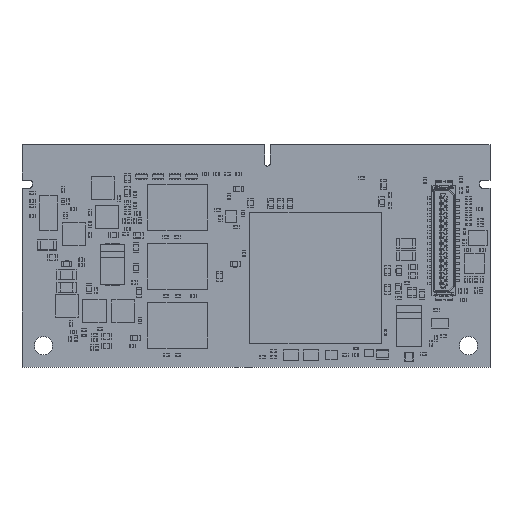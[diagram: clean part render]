
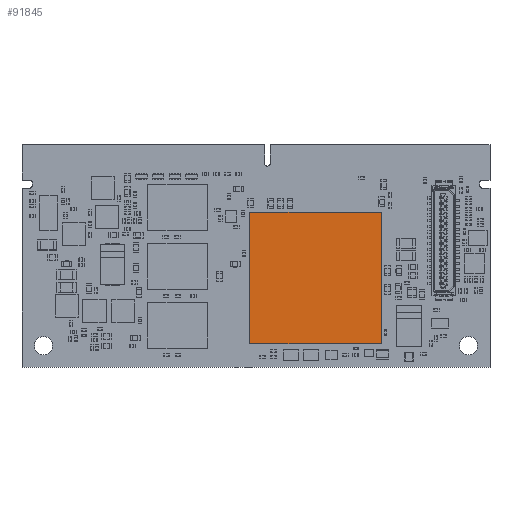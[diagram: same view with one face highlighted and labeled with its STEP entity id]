
A CAD part, top view. The second image highlights one B-rep face of the part: STEP entity #91845.
In plain terms, the highlighted planar face has unit normal (0, 0, 1).
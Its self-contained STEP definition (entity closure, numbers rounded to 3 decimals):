
#91531 = VERTEX_POINT('',#91532);
#91532 = CARTESIAN_POINT('',(-11.5,-11.5,1.5));
#91539 = PLANE('',#91540);
#91540 = AXIS2_PLACEMENT_3D('',#91541,#91542,#91543);
#91541 = CARTESIAN_POINT('',(-11.5,-11.5,0.));
#91542 = DIRECTION('',(-1.,0.,0.));
#91543 = DIRECTION('',(0.,1.,0.));
#91551 = PLANE('',#91552);
#91552 = AXIS2_PLACEMENT_3D('',#91553,#91554,#91555);
#91553 = CARTESIAN_POINT('',(11.5,-11.5,0.));
#91554 = DIRECTION('',(0.,-1.,0.));
#91555 = DIRECTION('',(-1.,0.,0.));
#91563 = EDGE_CURVE('',#91531,#91564,#91566,.T.);
#91564 = VERTEX_POINT('',#91565);
#91565 = CARTESIAN_POINT('',(-11.5,11.5,1.5));
#91566 = SURFACE_CURVE('',#91567,(#91571,#91578),.PCURVE_S1.);
#91567 = LINE('',#91568,#91569);
#91568 = CARTESIAN_POINT('',(-11.5,-11.5,1.5));
#91569 = VECTOR('',#91570,1.);
#91570 = DIRECTION('',(0.,1.,0.));
#91571 = PCURVE('',#91539,#91572);
#91572 = DEFINITIONAL_REPRESENTATION('',(#91573),#91577);
#91573 = LINE('',#91574,#91575);
#91574 = CARTESIAN_POINT('',(0.,-1.5));
#91575 = VECTOR('',#91576,1.);
#91576 = DIRECTION('',(1.,0.));
#91577 = ( GEOMETRIC_REPRESENTATION_CONTEXT(2) 
PARAMETRIC_REPRESENTATION_CONTEXT() REPRESENTATION_CONTEXT('2D SPACE',''
  ) );
#91578 = PCURVE('',#91579,#91584);
#91579 = PLANE('',#91580);
#91580 = AXIS2_PLACEMENT_3D('',#91581,#91582,#91583);
#91581 = CARTESIAN_POINT('',(-11.5,-11.5,1.5));
#91582 = DIRECTION('',(0.,0.,1.));
#91583 = DIRECTION('',(1.,0.,0.));
#91584 = DEFINITIONAL_REPRESENTATION('',(#91585),#91589);
#91585 = LINE('',#91586,#91587);
#91586 = CARTESIAN_POINT('',(0.,0.));
#91587 = VECTOR('',#91588,1.);
#91588 = DIRECTION('',(0.,1.));
#91589 = ( GEOMETRIC_REPRESENTATION_CONTEXT(2) 
PARAMETRIC_REPRESENTATION_CONTEXT() REPRESENTATION_CONTEXT('2D SPACE',''
  ) );
#91607 = PLANE('',#91608);
#91608 = AXIS2_PLACEMENT_3D('',#91609,#91610,#91611);
#91609 = CARTESIAN_POINT('',(-11.5,11.5,0.));
#91610 = DIRECTION('',(0.,1.,0.));
#91611 = DIRECTION('',(1.,0.,0.));
#91649 = EDGE_CURVE('',#91564,#91650,#91652,.T.);
#91650 = VERTEX_POINT('',#91651);
#91651 = CARTESIAN_POINT('',(11.5,11.5,1.5));
#91652 = SURFACE_CURVE('',#91653,(#91657,#91664),.PCURVE_S1.);
#91653 = LINE('',#91654,#91655);
#91654 = CARTESIAN_POINT('',(-11.5,11.5,1.5));
#91655 = VECTOR('',#91656,1.);
#91656 = DIRECTION('',(1.,0.,0.));
#91657 = PCURVE('',#91607,#91658);
#91658 = DEFINITIONAL_REPRESENTATION('',(#91659),#91663);
#91659 = LINE('',#91660,#91661);
#91660 = CARTESIAN_POINT('',(0.,-1.5));
#91661 = VECTOR('',#91662,1.);
#91662 = DIRECTION('',(1.,0.));
#91663 = ( GEOMETRIC_REPRESENTATION_CONTEXT(2) 
PARAMETRIC_REPRESENTATION_CONTEXT() REPRESENTATION_CONTEXT('2D SPACE',''
  ) );
#91664 = PCURVE('',#91579,#91665);
#91665 = DEFINITIONAL_REPRESENTATION('',(#91666),#91670);
#91666 = LINE('',#91667,#91668);
#91667 = CARTESIAN_POINT('',(0.,23.));
#91668 = VECTOR('',#91669,1.);
#91669 = DIRECTION('',(1.,0.));
#91670 = ( GEOMETRIC_REPRESENTATION_CONTEXT(2) 
PARAMETRIC_REPRESENTATION_CONTEXT() REPRESENTATION_CONTEXT('2D SPACE',''
  ) );
#91688 = PLANE('',#91689);
#91689 = AXIS2_PLACEMENT_3D('',#91690,#91691,#91692);
#91690 = CARTESIAN_POINT('',(11.5,11.5,0.));
#91691 = DIRECTION('',(1.,0.,0.));
#91692 = DIRECTION('',(0.,-1.,0.));
#91725 = EDGE_CURVE('',#91650,#91726,#91728,.T.);
#91726 = VERTEX_POINT('',#91727);
#91727 = CARTESIAN_POINT('',(11.5,-11.5,1.5));
#91728 = SURFACE_CURVE('',#91729,(#91733,#91740),.PCURVE_S1.);
#91729 = LINE('',#91730,#91731);
#91730 = CARTESIAN_POINT('',(11.5,11.5,1.5));
#91731 = VECTOR('',#91732,1.);
#91732 = DIRECTION('',(0.,-1.,0.));
#91733 = PCURVE('',#91688,#91734);
#91734 = DEFINITIONAL_REPRESENTATION('',(#91735),#91739);
#91735 = LINE('',#91736,#91737);
#91736 = CARTESIAN_POINT('',(0.,-1.5));
#91737 = VECTOR('',#91738,1.);
#91738 = DIRECTION('',(1.,0.));
#91739 = ( GEOMETRIC_REPRESENTATION_CONTEXT(2) 
PARAMETRIC_REPRESENTATION_CONTEXT() REPRESENTATION_CONTEXT('2D SPACE',''
  ) );
#91740 = PCURVE('',#91579,#91741);
#91741 = DEFINITIONAL_REPRESENTATION('',(#91742),#91746);
#91742 = LINE('',#91743,#91744);
#91743 = CARTESIAN_POINT('',(23.,23.));
#91744 = VECTOR('',#91745,1.);
#91745 = DIRECTION('',(0.,-1.));
#91746 = ( GEOMETRIC_REPRESENTATION_CONTEXT(2) 
PARAMETRIC_REPRESENTATION_CONTEXT() REPRESENTATION_CONTEXT('2D SPACE',''
  ) );
#91796 = EDGE_CURVE('',#91726,#91531,#91797,.T.);
#91797 = SURFACE_CURVE('',#91798,(#91802,#91809),.PCURVE_S1.);
#91798 = LINE('',#91799,#91800);
#91799 = CARTESIAN_POINT('',(11.5,-11.5,1.5));
#91800 = VECTOR('',#91801,1.);
#91801 = DIRECTION('',(-1.,0.,0.));
#91802 = PCURVE('',#91551,#91803);
#91803 = DEFINITIONAL_REPRESENTATION('',(#91804),#91808);
#91804 = LINE('',#91805,#91806);
#91805 = CARTESIAN_POINT('',(0.,-1.5));
#91806 = VECTOR('',#91807,1.);
#91807 = DIRECTION('',(1.,0.));
#91808 = ( GEOMETRIC_REPRESENTATION_CONTEXT(2) 
PARAMETRIC_REPRESENTATION_CONTEXT() REPRESENTATION_CONTEXT('2D SPACE',''
  ) );
#91809 = PCURVE('',#91579,#91810);
#91810 = DEFINITIONAL_REPRESENTATION('',(#91811),#91815);
#91811 = LINE('',#91812,#91813);
#91812 = CARTESIAN_POINT('',(23.,0.));
#91813 = VECTOR('',#91814,1.);
#91814 = DIRECTION('',(-1.,0.));
#91815 = ( GEOMETRIC_REPRESENTATION_CONTEXT(2) 
PARAMETRIC_REPRESENTATION_CONTEXT() REPRESENTATION_CONTEXT('2D SPACE',''
  ) );
#91845 = ADVANCED_FACE('',(#91846),#91579,.T.);
#91846 = FACE_BOUND('',#91847,.F.);
#91847 = EDGE_LOOP('',(#91848,#91849,#91850,#91851));
#91848 = ORIENTED_EDGE('',*,*,#91563,.T.);
#91849 = ORIENTED_EDGE('',*,*,#91649,.T.);
#91850 = ORIENTED_EDGE('',*,*,#91725,.T.);
#91851 = ORIENTED_EDGE('',*,*,#91796,.T.);
